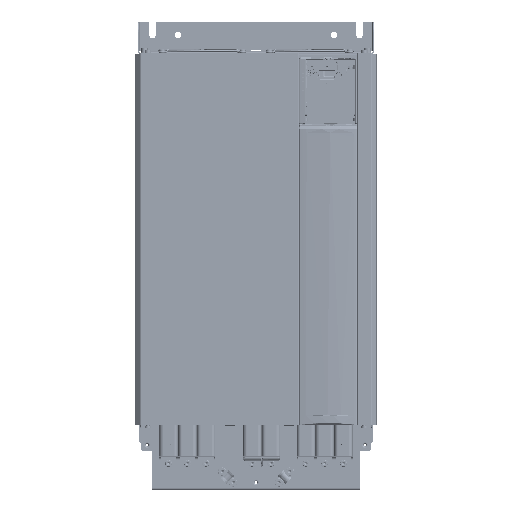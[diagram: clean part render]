
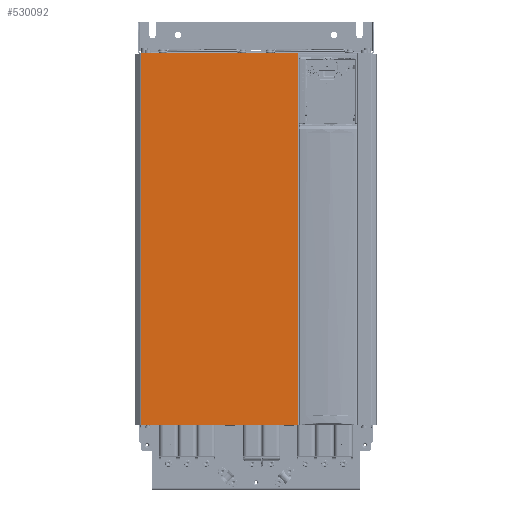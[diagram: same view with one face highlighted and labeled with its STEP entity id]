
A CAD part, top view. The second image highlights one B-rep face of the part: STEP entity #530092.
In plain terms, the highlighted planar face has unit normal (0, 0, 1) as drawn and (0, 0, -1) by its records, which use the part's own axes.
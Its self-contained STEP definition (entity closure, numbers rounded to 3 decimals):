
#522603=DIRECTION('',(0.,1.,0.));
#522604=VECTOR('',#522603,484.5);
#522605=CARTESIAN_POINT('',(-150.,0.,-126.));
#522606=LINE('',#522605,#522604);
#522617=DIRECTION('',(1.,0.,0.));
#522618=VECTOR('',#522617,204.5);
#522619=CARTESIAN_POINT('',(-150.,0.,-126.));
#522620=LINE('',#522619,#522618);
#522645=DIRECTION('',(1.,0.,0.));
#522646=VECTOR('',#522645,204.5);
#522647=CARTESIAN_POINT('',(-150.,484.5,-126.));
#522648=LINE('',#522647,#522646);
#522689=DIRECTION('',(0.,-1.,0.));
#522690=VECTOR('',#522689,484.5);
#522691=CARTESIAN_POINT('',(54.5,484.5,-126.));
#522692=LINE('',#522691,#522690);
#527865=CARTESIAN_POINT('',(-150.,0.,-126.));
#527866=VERTEX_POINT('',#527865);
#527867=CARTESIAN_POINT('',(-150.,484.5,-126.));
#527868=VERTEX_POINT('',#527867);
#527869=CARTESIAN_POINT('',(54.5,0.,-126.));
#527870=VERTEX_POINT('',#527869);
#527871=CARTESIAN_POINT('',(54.5,484.5,-126.));
#527872=VERTEX_POINT('',#527871);
#530078=CARTESIAN_POINT('',(54.5,0.,-126.));
#530079=DIRECTION('',(0.,0.,-1.));
#530080=DIRECTION('',(-1.,0.,0.));
#530081=AXIS2_PLACEMENT_3D('',#530078,#530079,#530080);
#530082=PLANE('',#530081);
#530084=ORIENTED_EDGE('',*,*,#530083,.T.);
#530086=ORIENTED_EDGE('',*,*,#530085,.F.);
#530088=ORIENTED_EDGE('',*,*,#530087,.F.);
#530089=ORIENTED_EDGE('',*,*,#530070,.F.);
#530090=EDGE_LOOP('',(#530084,#530086,#530088,#530089));
#530091=FACE_OUTER_BOUND('',#530090,.F.);
#530092=ADVANCED_FACE('',(#530091),#530082,.T.);
#530070=EDGE_CURVE('',#527866,#527868,#522606,.T.);
#530083=EDGE_CURVE('',#527866,#527870,#522620,.T.);
#530085=EDGE_CURVE('',#527872,#527870,#522692,.T.);
#530087=EDGE_CURVE('',#527868,#527872,#522648,.T.);
